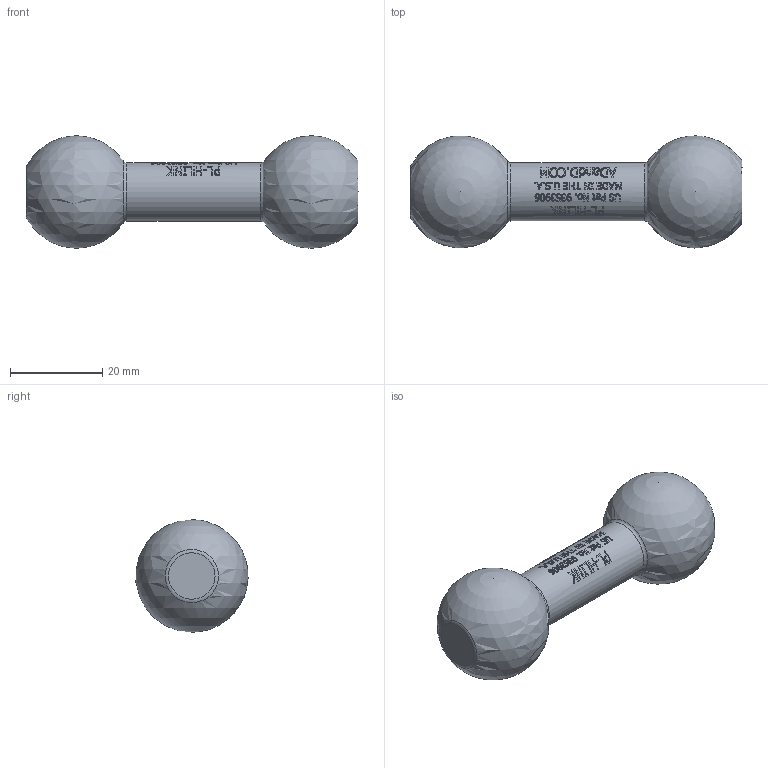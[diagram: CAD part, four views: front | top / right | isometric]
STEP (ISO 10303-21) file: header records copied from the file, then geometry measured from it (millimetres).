
FILE_DESCRIPTION(/* description */ (''),/* implementation_level */ '2;1');
FILE_NAME(/* name */ 'C:\Users\owner\Desktop\PL-HYPERLINKS_3D_stp\PL-HLINK2IN.stp',/* time_stamp */ '2017-09-29T14:53:54-04:00',/* author */ ('owner'),/* organization */ (''),/* preprocessor_version */ 'ST-DEVELOPER v16.5',/* originating_system */ 'Autodesk Inventor 2017',/* authorisation */ '');
FILE_SCHEMA (('CONFIG_CONTROL_DESIGN'));
Length unit declared in the file: inch
Products named in the file (3): PL-HLINK; 60032; 60033-2
Assembly tree (2 placements, depth 2):
  PL-HLINK
    60032
    60033-2
Bounding box: 71.85 x 24.27 x 24.37 mm (x, y, z)
Volume: 17283.7 mm3; surface area: 6080.2 mm2
Topology: 2 solids, 2 shells, 732 faces, 1981 edges, 1319 vertices
Faces by surface type: plane 350, bspline 300, cylinder 70, cone 5, torus 5, sphere 2
Full cylindrical faces by diameter (mm): 9.487 x1, 9.525 x2, 9.588 x1, 12.611 x1
Entity records: 28611 total; most frequent: CARTESIAN_POINT 11823, ORIENTED_EDGE 3916, DIRECTION 2629, EDGE_CURVE 1958, VERTEX_POINT 1310, LINE 965, VECTOR 965, AXIS2_PLACEMENT_3D 832
